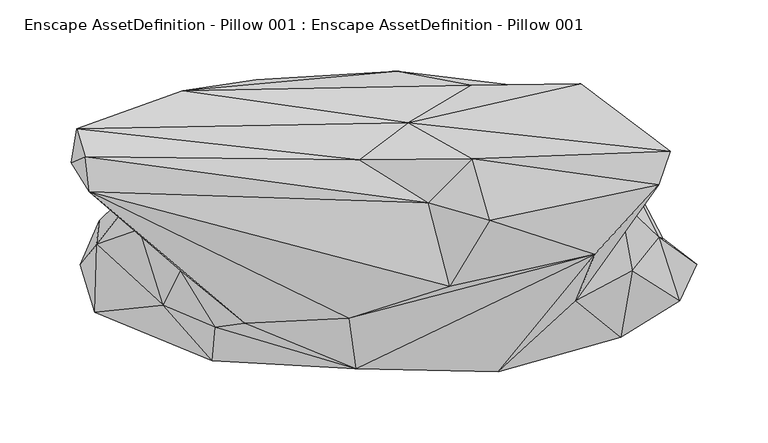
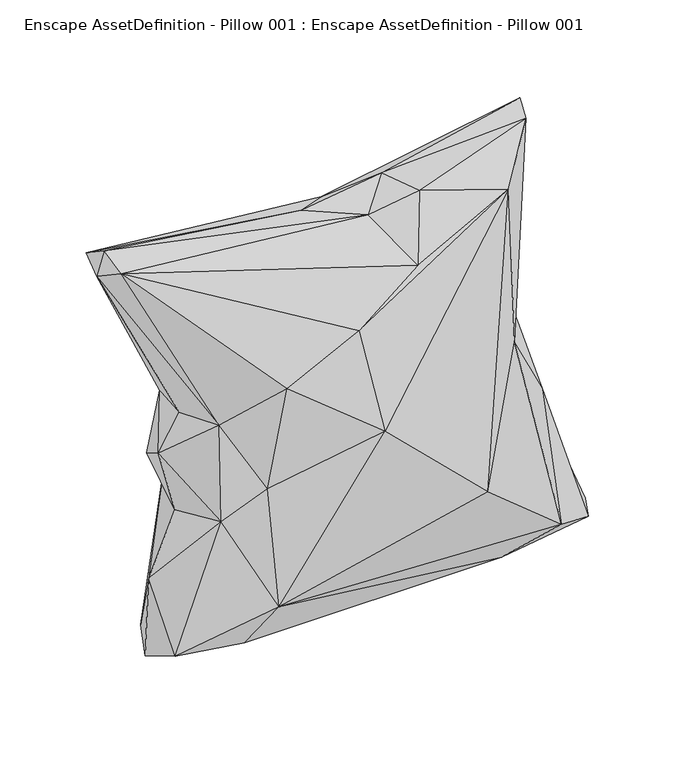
"""IFC4 building model written with IfcOpenShell, lengths in millimetres: geographic element geometry, Enscape AssetDefinition - Pillow 001 : Enscape AssetDefinition - Pillow 001."""

from ifc_helpers import new_model, si_unit, origin, place, context, project, spatial, triangles, source, transform, mapped, element, save


def enscape_assetdefinition_pillow_001_enscape_assetdefinition_3c2d30c5(model_context):
    return source(origin(), model_context, "Body", "Tessellation", [
        triangles([(148.3618199, 17.607695, 359.0831328), (193.5001076, 66.2979654, 387.6898896), (134.9477767, -15.3372168, 224.8304263), (-206.9593151, 61.4704212, 369.1587896), (46.2622062, -5.0400727, 329.8588265), (31.2977126, 53.7225475, 351.9992266), (-24.6567844, -27.4425678, 300.3123742), (-97.5445456, -31.1251146, 267.7008473), (-142.7534958, 5.8650978, 223.0523735), (74.6488047, 41.3636771, 369.691715), (-17.2989577, 83.9584291, 355.2939746), (-219.6771253, 81.6231701, 358.7499046), (-209.7385604, 85.9716692, 379.4956587), (-215.8345365, 105.8577192, 367.2115611), (62.2433165, 84.5577747, 366.1983962), (201.2613344, 89.963395, 391.7707088), (17.4396354, 110.0810079, 341.0108711), (146.1168261, 123.6764444, 227.2764979), (138.5835559, 137.3155737, 330.5026826), (165.6652877, 56.320831, 232.4944934), (117.438008, 132.9614336, 205.4107723), (152.0435628, 64.2491897, 33.0229207), (9.5798159, 146.1810936, 273.815336), (61.5845903, 136.1090522, 310.7445863), (196.0827079, 28.6175914, 13.3612495), (57.5104613, 40.6946636, 1.813853), (-131.5287358, 77.1642943, 29.5791311), (-153.3681277, 85.9847407, 118.3892308), (-89.4797944, 140.2195571, 208.0487108), (-141.1938072, 132.3142347, 330.5246653), (-119.5765402, 130.3939395, 211.8657017), (-167.4529693, 86.9843617, 154.2437283), (-199.9906998, 41.0051415, 14.5866096), (-147.888493, 98.5405967, 205.1056492), (-154.5508498, 53.5045466, 211.6967985), (-176.7171204, 51.1569701, 178.5209892), (-169.5146894, 35.7495507, 126.6962001), (-154.8407304, -18.1516366, 141.4953513), (-201.6623637, 24.5876026, 73.5084719), (-118.257362, -33.6946389, 172.7634554), (-19.4769112, -63.0276118, 215.3974083), (80.5774218, -64.9215006, 118.7321604), (-202.9877552, -23.2609485, 22.0481023), (115.1301365, -28.1565776, 16.5254414), (-120.6370314, -57.2979198, 65.2158549), (166.6495118, -40.7465863, 40.2734593), (-136.8376868, -26.9692068, 14.9705729), (-65.441804, 10.9276556, 1.3126566), (-213.2915957, 10.0158698, 5.8244384), (196.7929662, 6.4534198, -2.0657287), (207.9345463, -15.1836719, 18.4286353), (174.7852615, 5.9012852, 149.6383953), (193.8078286, 29.470192, 97.8852043), (220.1216113, 10.5977123, 17.6104769)], [[33, 26, 48], [33, 48, 49], [25, 53, 54], [26, 50, 48], [54, 50, 25], [25, 50, 26], [50, 54, 51], [53, 51, 54], [53, 52, 51], [52, 3, 46], [3, 42, 46], [52, 46, 51], [51, 46, 44], [50, 51, 44], [50, 44, 48], [49, 48, 47], [48, 44, 47], [49, 47, 43], [46, 45, 44], [44, 45, 47], [47, 45, 43], [46, 42, 45], [41, 45, 42], [45, 41, 40], [41, 8, 40], [40, 8, 9], [9, 12, 35], [45, 40, 38], [45, 38, 43], [40, 9, 38], [43, 38, 39], [43, 39, 49], [39, 33, 49], [38, 37, 39], [38, 36, 37], [9, 36, 38], [9, 35, 36], [35, 12, 34], [35, 34, 36], [12, 14, 34], [37, 36, 32], [32, 36, 34], [39, 28, 33], [37, 28, 39], [37, 32, 28], [28, 32, 31], [34, 31, 32], [34, 14, 31], [14, 30, 31], [30, 24, 23], [29, 30, 23], [30, 29, 31], [31, 29, 27], [28, 27, 33], [28, 31, 27], [27, 26, 33], [26, 27, 22], [22, 25, 26], [29, 21, 27], [23, 24, 21], [21, 22, 27], [23, 21, 29], [24, 19, 21], [22, 21, 18], [25, 18, 53], [19, 18, 21], [22, 18, 25], [52, 20, 3], [18, 20, 53], [53, 20, 52], [20, 2, 3], [20, 16, 2], [19, 16, 18], [16, 20, 18], [30, 14, 17], [17, 19, 24], [19, 17, 16], [30, 17, 24], [15, 10, 2], [16, 17, 15], [15, 2, 16], [14, 11, 17], [17, 11, 15], [12, 13, 14], [14, 13, 11], [15, 11, 6], [11, 13, 6], [15, 6, 10], [6, 13, 4], [8, 4, 9], [13, 12, 4], [4, 12, 9], [41, 7, 8], [7, 4, 8], [5, 10, 6], [6, 4, 5], [5, 4, 7], [1, 7, 41], [3, 2, 1], [10, 1, 2], [3, 1, 42], [1, 5, 7], [1, 41, 42], [1, 10, 5]]),
    ])


if __name__ == "__main__":
    model = new_model("IFC4")
    model_context = context("Model", 3, world=origin())
    ifc_project = project(units=[si_unit("LENGTHUNIT", "METRE", prefix="MILLI")], contexts=[model_context])
    site = spatial("IfcSite", under=ifc_project)
    building = spatial("IfcBuilding", under=site)
    placement = place(None, origin())
    enscape_assetdefinition_pillow_001_enscape_assetdefinition_shape = enscape_assetdefinition_pillow_001_enscape_assetdefinition_3c2d30c5(model_context)
    element("IfcGeographicElement", 1, ObjectType="Enscape AssetDefinition - Pillow 001 : Enscape AssetDefinition - Pillow 001", at=placement, inside=building, context=model_context, shape_type="MappedRepresentation", body=[
        mapped(enscape_assetdefinition_pillow_001_enscape_assetdefinition_shape, transform((0.0, 0.0, 0.0), x_axis=(1.0, 0.0, 0.0), y_axis=(0.0, 1.0, 0.0), z_axis=(0.0, 0.0, 1.0))),
    ])
    save(model, "model.ifc")
